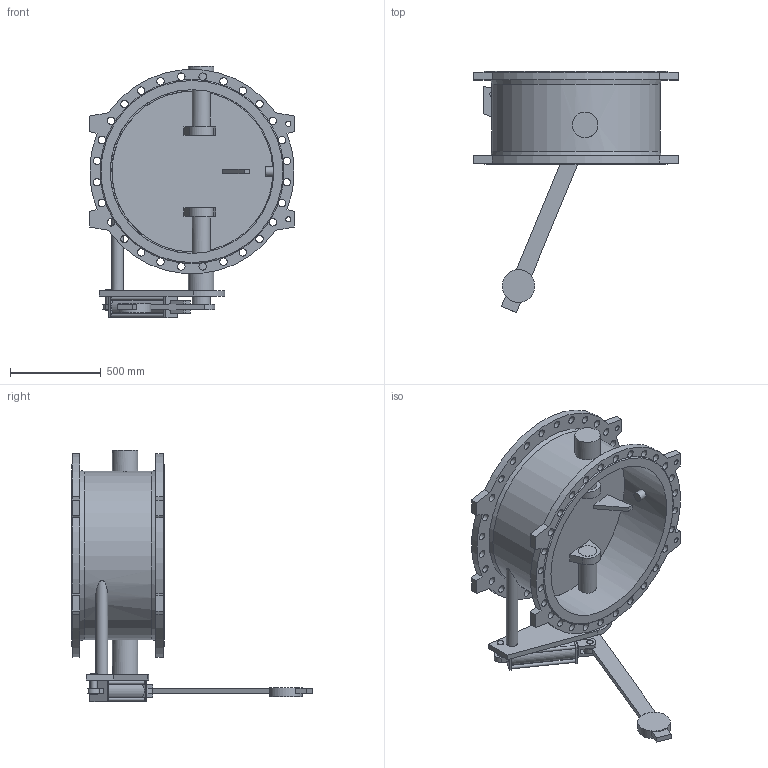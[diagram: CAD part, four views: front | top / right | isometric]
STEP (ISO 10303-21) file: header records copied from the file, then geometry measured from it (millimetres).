
FILE_DESCRIPTION(('STEP AP203'), '1');
FILE_NAME('Êëàïàí 015F.PV DN900 PN16 ñ ïðîòèâîâåñîì ñ äåìïôåðîì', '', ('UNSPECIFIED'), ('UNSPECIFIED'), 'ASCON STEP Converter 1.6', 'ASCON Math Kernel', '');
FILE_SCHEMA(('CONFIG_CONTROL_DESIGN'));
Length unit declared in the file: millimetre
Bounding box: 1125 x 1325 x 1385 mm (x, y, z)
Volume: 76996296.9 mm3; surface area: 7375975.1 mm2
Topology: 1 solids, 1 shells, 223 faces, 744 edges, 494 vertices
Faces by surface type: cylinder 114, plane 100, cone 4, extrusion 2, torus 2, bspline 1
Full cylindrical faces by diameter (mm): 18 x4, 20 x1, 28 x4, 30 x2, 35 x7, 41 x56, 50 x2, 65 x1, 100 x4, 102 x2, 140 x2, 180 x1, 900 x1, 926 x1
Entity records: 14720 total; most frequent: CARTESIAN_POINT 6381, DIRECTION 1346, ORIENTED_EDGE 1282, EDGE_CURVE 641, AXIS2_PLACEMENT_3D 565, VERTEX_POINT 493, EDGE_LOOP 438, CIRCLE 344
